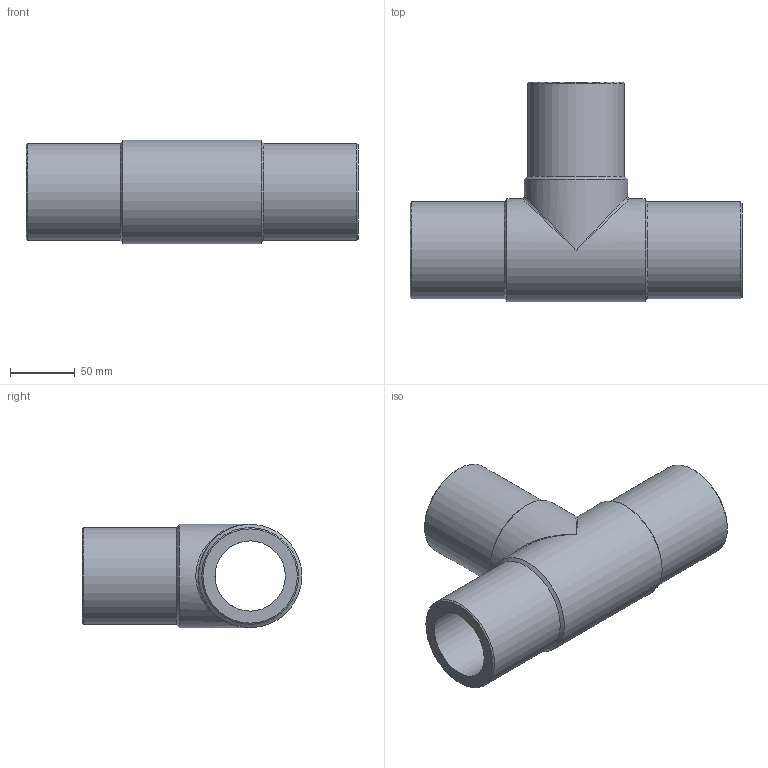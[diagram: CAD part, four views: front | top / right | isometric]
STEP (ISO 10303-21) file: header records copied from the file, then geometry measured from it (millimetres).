
FILE_DESCRIPTION(/* description */ ('Unknown'),/* implementation_level */ '2;1');
FILE_NAME(/* name */ 'TP075H',/* time_stamp */ '2021-08-12T16:35:21+02:00',/* author */ ('Unknown'),/* organization */ ('Unknown'),/* preprocessor_version */ 'ST-DEVELOPER v16.7',/* originating_system */ 'Solid Edge',/* authorisation */ 'Unknown');
FILE_SCHEMA (('AUTOMOTIVE_DESIGN {1 0 10303 214 3 1 1}'));
Length unit declared in the file: millimetre
Products named in the file (1): TP075H
Bounding box: 257 x 170 x 80 mm (x, y, z)
Volume: 793367.4 mm3; surface area: 147853.7 mm2
Topology: 1 solids, 1 shells, 18 faces, 44 edges, 23 vertices
Faces by surface type: cylinder 7, cone 6, plane 3, bspline 2
Full cylindrical faces by diameter (mm): 54.4 x2, 75 x3, 80 x2
Entity records: 504 total; most frequent: CARTESIAN_POINT 147, DIRECTION 76, ORIENTED_EDGE 42, AXIS2_PLACEMENT_3D 38, EDGE_LOOP 36, FACE_BOUND 36, EDGE_CURVE 21, VERTEX_POINT 19
